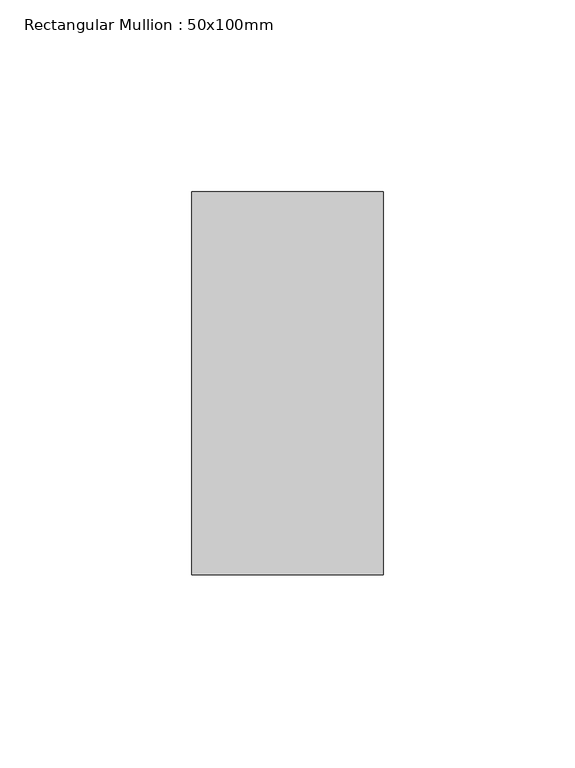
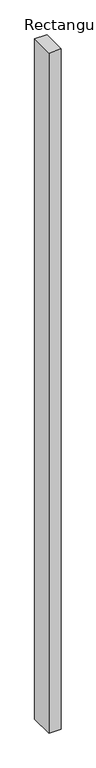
"""IFC4 building model written with IfcOpenShell, lengths in millimetres: member geometry, Rectangular Mullion : 50x100mm."""

from ifc_helpers import new_model, si_unit, frame, origin, place, context, project, spatial, polyline, outline, extrude, source, transform, mapped, element, save


def rectangular_mullion_50x100mm_03ac23bd(model_context):
    return source(origin(), model_context, "Body", "SweptSolid", [
        extrude(outline(polyline([(25.0, 50.0), (25.0, -50.0), (-25.0, -50.0), (-25.0, 50.0), (25.0, 50.0)])), frame((0.0, 0.0, -2930.0), z_axis=(0.0, 0.0, 1.0), x_axis=(1.0, 0.0, 0.0)), (0.0, 0.0, 1.0), 2930.0),
    ])


if __name__ == "__main__":
    model = new_model("IFC4")
    model_context = context("Model", 3, world=origin())
    ifc_project = project(units=[si_unit("LENGTHUNIT", "METRE", prefix="MILLI")], contexts=[model_context])
    site = spatial("IfcSite", under=ifc_project)
    building = spatial("IfcBuilding", under=site)
    placement = place(None, origin())
    rectangular_mullion_50x100mm_shape = rectangular_mullion_50x100mm_03ac23bd(model_context)
    element("IfcMember", 1, ObjectType="Rectangular Mullion : 50x100mm", at=placement, inside=building, context=model_context, shape_type="MappedRepresentation", body=[
        mapped(rectangular_mullion_50x100mm_shape, transform((0.0, 0.0, 0.0), x_axis=(1.0, 0.0, 0.0), y_axis=(0.0, 1.0, 0.0), z_axis=(0.0, 0.0, 1.0))),
    ])
    save(model, "model.ifc")
